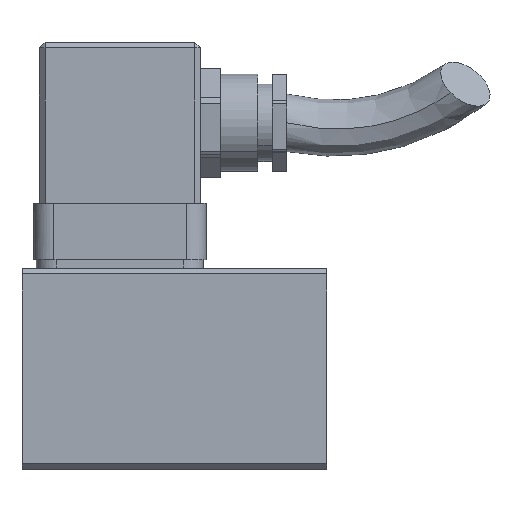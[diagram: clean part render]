
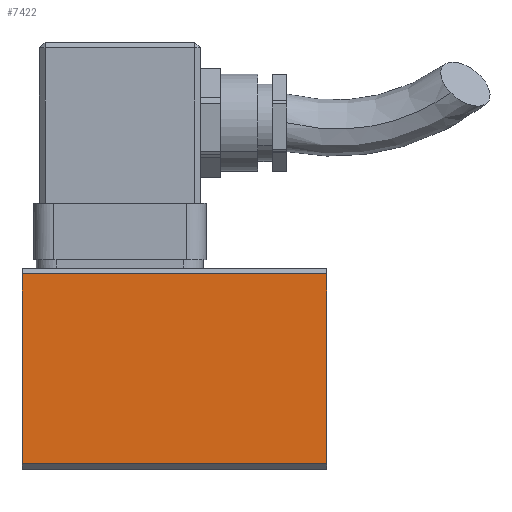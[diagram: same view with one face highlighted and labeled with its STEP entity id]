
A CAD part, top view. The second image highlights one B-rep face of the part: STEP entity #7422.
In plain terms, the highlighted planar face has unit normal (0, 0, 1).
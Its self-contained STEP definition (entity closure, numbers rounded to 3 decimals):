
#72 = DIRECTION ( 'NONE',  ( 0., -1., 0. ) ) ;
#605 = LINE ( 'NONE', #3490, #6296 ) ;
#747 = CARTESIAN_POINT ( 'NONE',  ( 53., -17.5, 17.5 ) ) ;
#900 = LINE ( 'NONE', #747, #10023 ) ;
#1058 = VERTEX_POINT ( 'NONE', #10184 ) ;
#1998 = ORIENTED_EDGE ( 'NONE', *, *, #8313, .T. ) ;
#2314 = FACE_OUTER_BOUND ( 'NONE', #3821, .T. ) ;
#3025 = LINE ( 'NONE', #5584, #7608 ) ;
#3467 = DIRECTION ( 'NONE',  ( 0., -1., 0. ) ) ;
#3490 = CARTESIAN_POINT ( 'NONE',  ( 53., 16.5, 17.5 ) ) ;
#3546 = CARTESIAN_POINT ( 'NONE',  ( 0., -16.5, 17.5 ) ) ;
#3736 = LINE ( 'NONE', #8567, #8602 ) ;
#3746 = EDGE_CURVE ( 'NONE', #4765, #1058, #605, .T. ) ;
#3821 = EDGE_LOOP ( 'NONE', ( #1998, #7488, #11666, #10715 ) ) ;
#4119 = DIRECTION ( 'NONE',  ( 0., 0., -1. ) ) ;
#4765 = VERTEX_POINT ( 'NONE', #8945 ) ;
#4777 = VERTEX_POINT ( 'NONE', #3546 ) ;
#5167 = AXIS2_PLACEMENT_3D ( 'NONE', #9566, #4119, #10473 ) ;
#5314 = VERTEX_POINT ( 'NONE', #11682 ) ;
#5584 = CARTESIAN_POINT ( 'NONE',  ( 0., -17.5, 17.5 ) ) ;
#6296 = VECTOR ( 'NONE', #7096, 1000. ) ;
#7096 = DIRECTION ( 'NONE',  ( -1., 0., 0. ) ) ;
#7422 = ADVANCED_FACE ( 'NONE', ( #2314 ), #9313, .F. ) ;
#7488 = ORIENTED_EDGE ( 'NONE', *, *, #11482, .T. ) ;
#7608 = VECTOR ( 'NONE', #72, 1000. ) ;
#8105 = EDGE_CURVE ( 'NONE', #4765, #5314, #900, .T. ) ;
#8313 = EDGE_CURVE ( 'NONE', #1058, #4777, #3025, .T. ) ;
#8567 = CARTESIAN_POINT ( 'NONE',  ( 53., -16.5, 17.5 ) ) ;
#8602 = VECTOR ( 'NONE', #10345, 1000. ) ;
#8945 = CARTESIAN_POINT ( 'NONE',  ( 53., 16.5, 17.5 ) ) ;
#9313 = PLANE ( 'NONE',  #5167 ) ;
#9566 = CARTESIAN_POINT ( 'NONE',  ( 53., -17.5, 17.5 ) ) ;
#10023 = VECTOR ( 'NONE', #3467, 1000. ) ;
#10184 = CARTESIAN_POINT ( 'NONE',  ( 0., 16.5, 17.5 ) ) ;
#10345 = DIRECTION ( 'NONE',  ( 1., 0., 0. ) ) ;
#10473 = DIRECTION ( 'NONE',  ( -1., 0., 0. ) ) ;
#10715 = ORIENTED_EDGE ( 'NONE', *, *, #3746, .T. ) ;
#11482 = EDGE_CURVE ( 'NONE', #4777, #5314, #3736, .T. ) ;
#11666 = ORIENTED_EDGE ( 'NONE', *, *, #8105, .F. ) ;
#11682 = CARTESIAN_POINT ( 'NONE',  ( 53., -16.5, 17.5 ) ) ;
